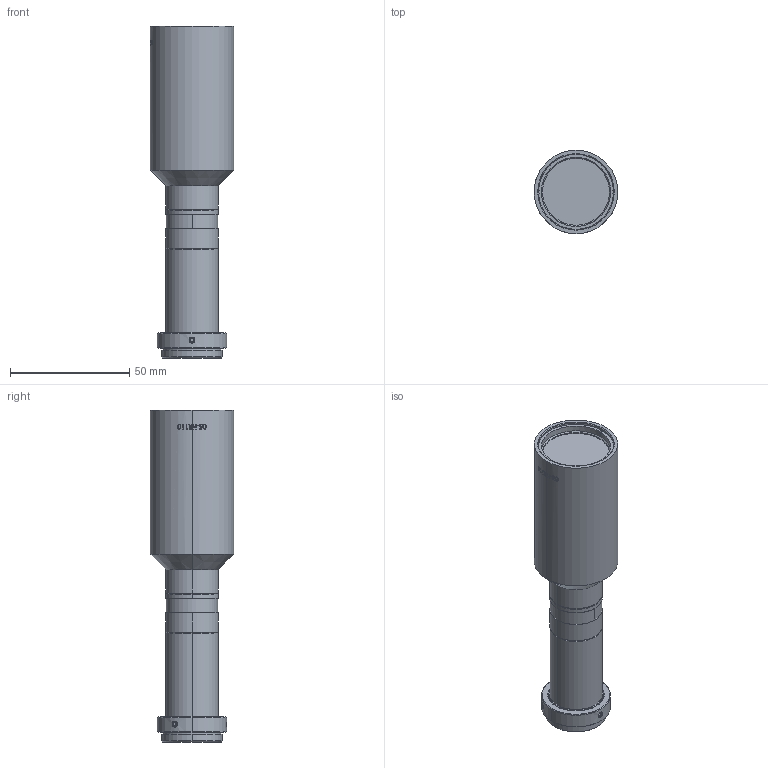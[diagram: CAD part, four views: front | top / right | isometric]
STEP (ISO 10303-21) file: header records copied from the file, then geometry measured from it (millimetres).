
FILE_DESCRIPTION (( 'STEP AP203' ), '1' );
FILE_NAME ('MML05-HR110_A03490A0100101A-001.STEP', '2013-11-21T08:19:51', ( 'SCHOTT' ), ( 'SCHOTT' ), 'SwSTEP 2.0', 'SolidWorks 2011', '' );
FILE_SCHEMA (( 'CONFIG_CONTROL_DESIGN' ));
Length unit declared in the file: millimetre
Products named in the file (1): MML05-HR110_A03490A0100101A-001
Bounding box: 35 x 35 x 139.11 mm (x, y, z)
Volume: 79828.4 mm3; surface area: 17190.5 mm2
Topology: 1 solids, 1 shells, 249 faces, 611 edges, 392 vertices
Faces by surface type: plane 91, cone 69, cylinder 53, bspline 36
Entity records: 12338 total; most frequent: CARTESIAN_POINT 6608, ORIENTED_EDGE 1222, DIRECTION 1089, EDGE_CURVE 611, AXIS2_PLACEMENT_3D 417, VERTEX_POINT 392, EDGE_LOOP 277, VECTOR 255
